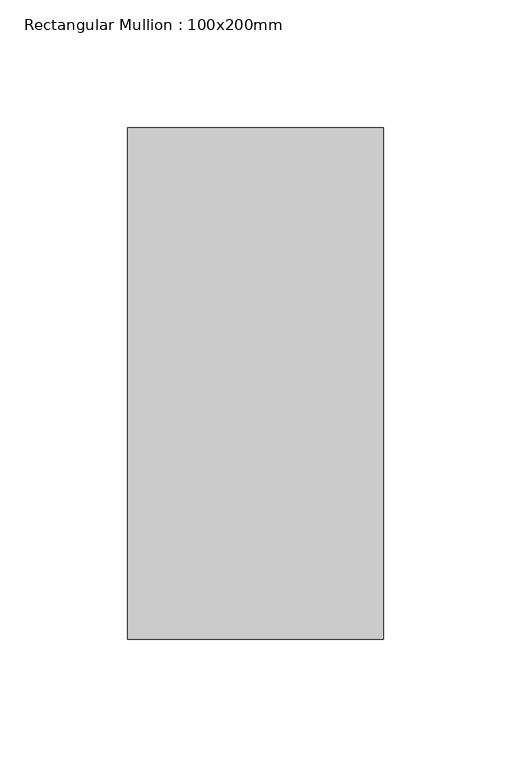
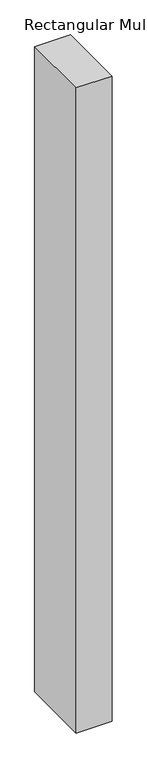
"""IFC4 building model written with IfcOpenShell, lengths in millimetres: member geometry, Rectangular Mullion : 100x200mm."""

from ifc_helpers import new_model, si_unit, frame, origin, place, context, project, spatial, polyline, outline, extrude, source, transform, mapped, element, save


def rectangular_mullion_100x200mm_7f75bd5a(model_context):
    return source(origin(), model_context, "Body", "SweptSolid", [
        extrude(outline(polyline([(0.0, 100.0), (0.0, -100.0), (-100.0, -100.0), (-100.0, 100.0), (0.0, 100.0)])), frame((0.0, 0.0, -1899.9997491), z_axis=(0.0, 0.0, 1.0), x_axis=(1.0, 0.0, 0.0)), (0.0, 0.0, 1.0), 1899.9997491),
    ])


if __name__ == "__main__":
    model = new_model("IFC4")
    model_context = context("Model", 3, world=origin())
    ifc_project = project(units=[si_unit("LENGTHUNIT", "METRE", prefix="MILLI")], contexts=[model_context])
    site = spatial("IfcSite", under=ifc_project)
    building = spatial("IfcBuilding", under=site)
    placement = place(None, origin())
    rectangular_mullion_100x200mm_shape = rectangular_mullion_100x200mm_7f75bd5a(model_context)
    element("IfcMember", 1, ObjectType="Rectangular Mullion : 100x200mm", at=placement, inside=building, context=model_context, shape_type="MappedRepresentation", body=[
        mapped(rectangular_mullion_100x200mm_shape, transform((0.0, 0.0, 0.0), x_axis=(1.0, 0.0, 0.0), y_axis=(0.0, 1.0, 0.0), z_axis=(0.0, 0.0, 1.0))),
    ])
    save(model, "model.ifc")
